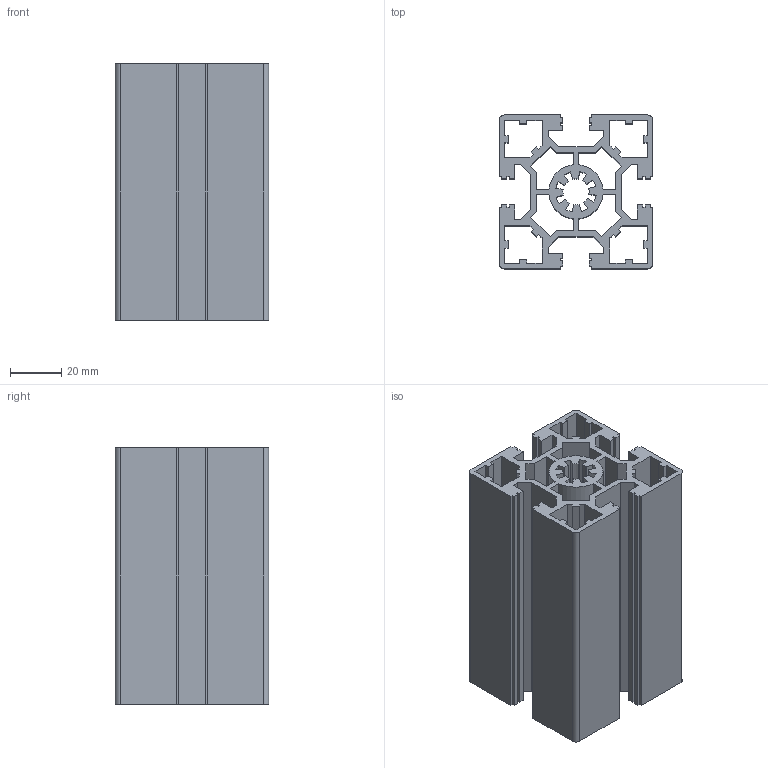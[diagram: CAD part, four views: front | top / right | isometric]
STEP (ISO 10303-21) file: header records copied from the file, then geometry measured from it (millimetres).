
FILE_DESCRIPTION (( 'STEP AP203' ), '1' );
FILE_NAME ('LIMA-6060-10.STEP', '2018-03-15T12:35:27', ( '' ), ( '' ), 'SwSTEP 2.0', 'SolidWorks 2013', '' );
FILE_SCHEMA (( 'CONFIG_CONTROL_DESIGN' ));
Length unit declared in the file: millimetre
Products named in the file (1): LIMA-6060-10
Bounding box: 60 x 60 x 100 mm (x, y, z)
Volume: 137377.1 mm3; surface area: 101333 mm2
Topology: 1 solids, 1 shells, 231 faces, 687 edges, 458 vertices
Faces by surface type: plane 206, cylinder 25
Entity records: 7744 total; most frequent: CARTESIAN_POINT 1377, ORIENTED_EDGE 1374, DIRECTION 1201, EDGE_CURVE 687, VECTOR 637, LINE 637, VERTEX_POINT 458, AXIS2_PLACEMENT_3D 282
